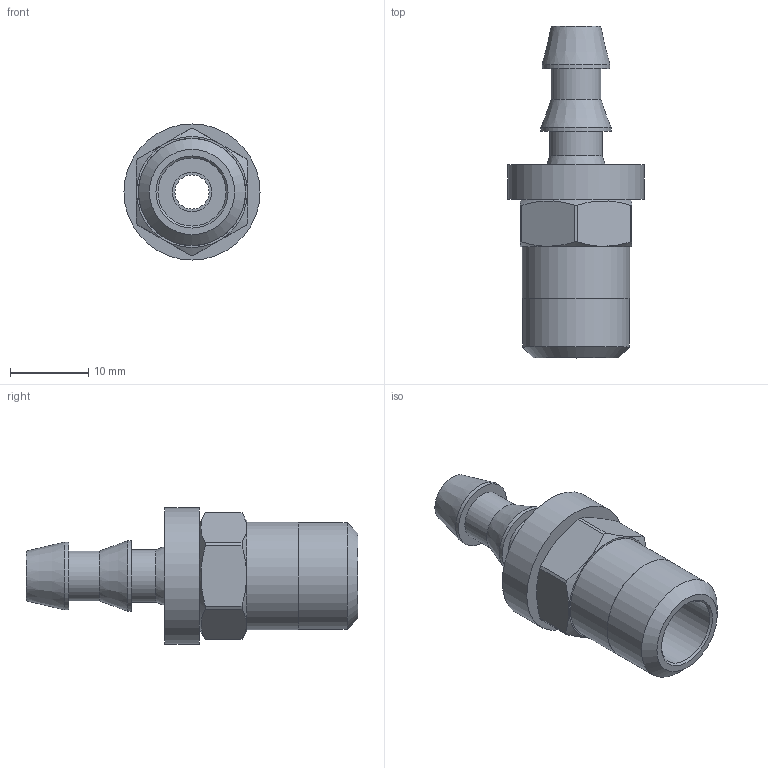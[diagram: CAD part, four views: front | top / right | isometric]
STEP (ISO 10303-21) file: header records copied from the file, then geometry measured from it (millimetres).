
FILE_DESCRIPTION(/* description */ (''),/* implementation_level */ '2;1');
FILE_NAME(/* name */ 'C:/Users/drich/Desktop/PLM-04-04 v3.step',/* time_stamp */ '2020-02-02T14:42:17-06:00',/* author */ (''),/* organization */ (''),/* preprocessor_version */ 'ST-DEVELOPER v18',/* originating_system */ 'Autodesk Translation Framework v8.12.0.6',/* authorisation */ '');
FILE_SCHEMA (('AUTOMOTIVE_DESIGN { 1 0 10303 214 3 1 1 }'));
Length unit declared in the file: inch
Products named in the file (3): PLM-04-04; -04 BARB ONLY; FW-6
Assembly tree (2 placements, depth 2):
  PLM-04-04
    -04 BARB ONLY
    FW-6
Bounding box: 17.45 x 42.55 x 17.45 mm (x, y, z)
Volume: 3153.1 mm3; surface area: 3414 mm2
Topology: 3 solids, 3 shells, 47 faces, 123 edges, 89 vertices
Faces by surface type: cylinder 20, plane 19, cone 8
Full cylindrical faces by diameter (mm): 4.369 x1, 5.08 x1, 6.391 x1, 6.696 x1, 7.214 x1, 8.331 x1, 8.712 x1, 8.738 x1, 9.017 x2, 13.716 x1, 13.767 x1, 14.91 x1, 17.45 x1
Entity records: 1624 total; most frequent: DIRECTION 292, CARTESIAN_POINT 288, ORIENTED_EDGE 246, AXIS2_PLACEMENT_3D 129, EDGE_CURVE 123, VERTEX_POINT 89, CIRCLE 77, EDGE_LOOP 60
